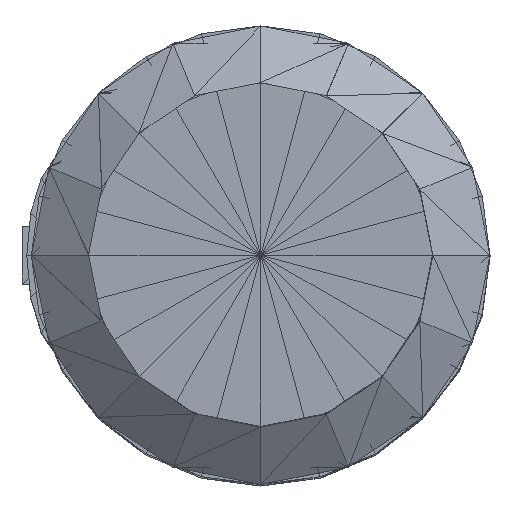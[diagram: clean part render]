
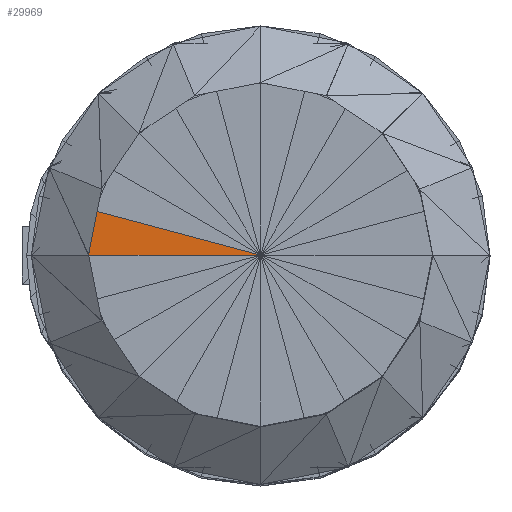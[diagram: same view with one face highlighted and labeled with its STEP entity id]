
A CAD part, top view. The second image highlights one B-rep face of the part: STEP entity #29969.
In plain terms, the highlighted planar face has unit normal (0, 0, 1).
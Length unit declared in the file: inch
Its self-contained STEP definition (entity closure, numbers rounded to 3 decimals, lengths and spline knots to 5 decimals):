
#29539=CARTESIAN_POINT('',(-0.,-0.00013,0.63858));
#29540=VERTEX_POINT('',#29539);
#29929=CARTESIAN_POINT('',(-0.10313,-0.00013,0.63858));
#29930=VERTEX_POINT('',#29929);
#29938=CARTESIAN_POINT('',(-0.10313,-0.00013,0.63858));
#29939=DIRECTION('',(1.,0.,-0.));
#29940=VECTOR('',#29939,0.10313);
#29941=LINE('',#29938,#29940);
#29942=EDGE_CURVE('',#29930,#29540,#29941,.T.);
#29947=CARTESIAN_POINT('',(-0.09961,0.02656,0.63858));
#29948=DIRECTION('',(0.,0.,1.));
#29949=DIRECTION('',(1.,0.,0.));
#29950=AXIS2_PLACEMENT_3D('',#29947,#29948,#29949);
#29951=PLANE('',#29950);
#29952=CARTESIAN_POINT('',(-0.09961,0.02656,0.63858));
#29953=VERTEX_POINT('',#29952);
#29954=CARTESIAN_POINT('',(-0.10313,-0.00013,0.63858));
#29955=DIRECTION('',(0.131,0.991,0.));
#29956=VECTOR('',#29955,0.02692);
#29957=LINE('',#29954,#29956);
#29958=EDGE_CURVE('',#29930,#29953,#29957,.T.);
#29959=ORIENTED_EDGE('',*,*,#29958,.F.);
#29960=ORIENTED_EDGE('',*,*,#29942,.T.);
#29961=CARTESIAN_POINT('',(0.,-0.00013,0.63858));
#29962=DIRECTION('',(-0.966,0.259,0.));
#29963=VECTOR('',#29962,0.10312);
#29964=LINE('',#29961,#29963);
#29965=EDGE_CURVE('',#29540,#29953,#29964,.T.);
#29966=ORIENTED_EDGE('',*,*,#29965,.T.);
#29967=EDGE_LOOP('',(#29959,#29960,#29966));
#29968=FACE_BOUND('',#29967,.T.);
#29969=ADVANCED_FACE('',(#29968),#29951,.T.);
